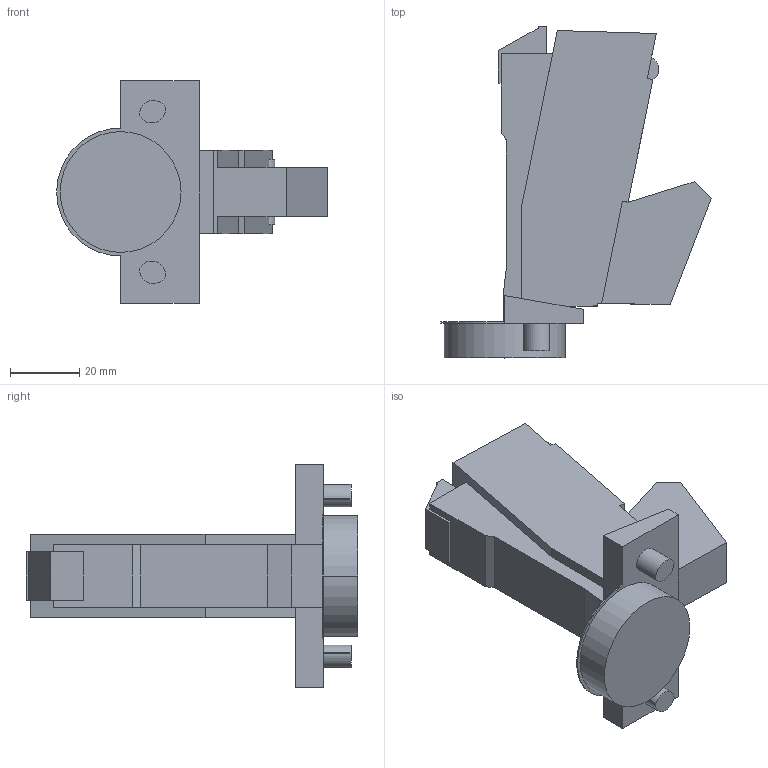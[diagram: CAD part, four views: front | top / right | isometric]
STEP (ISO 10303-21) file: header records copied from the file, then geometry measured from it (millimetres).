
FILE_DESCRIPTION (( 'STEP AP214' ), '1' );
FILE_NAME ('Scharnier TS Impresso 160° MB_BB, K03 - Neu -.step', '2019-09-17T09:14:47', ( '' ), ( '' ), 'SwSTEP 2.0', 'SolidWorks 2019', '' );
FILE_SCHEMA (( 'AUTOMOTIVE_DESIGN' ));
Length unit declared in the file: millimetre
Products named in the file (1): Scharnier TS Impresso 160° MB_BB, K03 - Neu -
Bounding box: 78.34 x 96.09 x 64.5 mm (x, y, z)
Volume: 95616.3 mm3; surface area: 19379.3 mm2
Topology: 1 solids, 1 shells, 62 faces, 167 edges, 110 vertices
Faces by surface type: plane 51, cylinder 11
Entity records: 1955 total; most frequent: CARTESIAN_POINT 340, ORIENTED_EDGE 334, DIRECTION 315, EDGE_CURVE 167, LINE 145, VECTOR 145, VERTEX_POINT 110, AXIS2_PLACEMENT_3D 85
